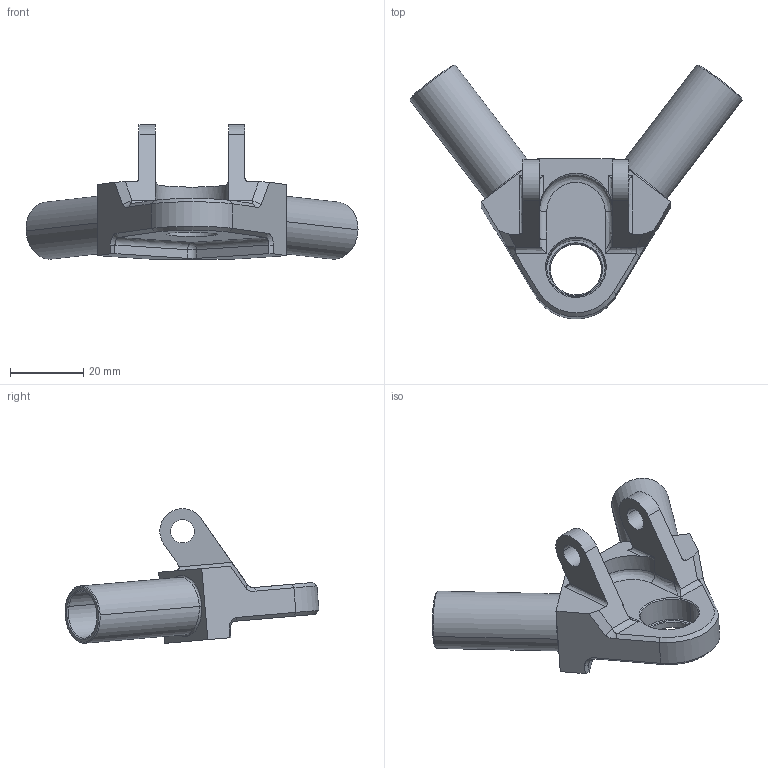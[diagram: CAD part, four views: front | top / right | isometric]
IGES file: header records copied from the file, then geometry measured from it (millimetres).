
Start section: START RECORD GO HERE.
Global section: file name: SU_03003  (Rear Upper Rod-End Support).igs; native system: IBM CATIA IGES - CATIA Version 5 Release 19 ; preprocessor: CATIA Version 5 Release 19 ; author: Le Genie; organization: THUNDERBOLT-OF-; date: 20220127.113632; units: millimetre
Bounding box: 90.83 x 69.46 x 36.83 mm (x, y, z)
Surface area: 13005.4 mm2 (no closed solid volume)
Topology: 0 solids, 0 shells, 99 faces, 498 edges, 505 vertices
Faces by surface type: revolution 59, plane 34, bspline 6
